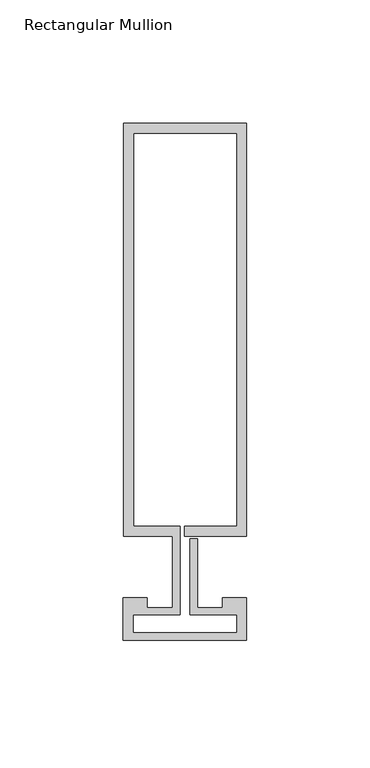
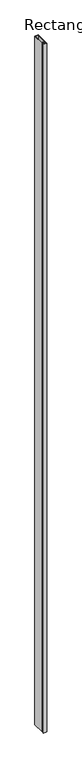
"""IFC4 building model written with IfcOpenShell, lengths in millimetres: member geometry, Rectangular Mullion : Reynaers_CW-50_Mullion-Transom_Vertical_167.5mm_Facecap-02B."""

import ifcopenshell
import ifcopenshell.guid

model = None  # the IFC model being written
_history = None  # IfcOwnerHistory: only IFC2X3 demands one
_inside = {}  # id of a spatial element -> (the spatial element, [elements in it])
_under = {}  # id of a project, library or spatial element -> (it, [spatial elements below it])
_declared = {}  # id of a project -> (the project, [libraries it declares])
_typed = {}  # id of a type object -> (the type object, [elements of that type])
_made_of = {}  # id of a material, layer set ... -> (it, [elements and type objects made of it])


def new_model(schema):
    """Start an empty IFC model of exactly this schema.

    Asked for "IFC4X3", IfcOpenShell would pick the latest addendum, in which some entities
    have other attributes; the version numbers below select the first issue.
    IFC2X3 requires an IfcOwnerHistory on every rooted entity: one is made here for all.
    """
    global model, _history
    if schema == "IFC4X3":
        model = ifcopenshell.file(schema_version=(4, 3, 0, 0))
    else:
        model = ifcopenshell.file(schema=schema)
    _inside.clear()
    _under.clear()
    _declared.clear()
    _typed.clear()
    _made_of.clear()
    _history = None
    if model.schema == "IFC2X3":
        org = make("IfcOrganization", Name="unknown")
        user = make(
            "IfcPersonAndOrganization",
            ThePerson=make("IfcPerson", FamilyName="unknown"),
            TheOrganization=org,
        )
        app = make(
            "IfcApplication",
            ApplicationDeveloper=org,
            Version="unknown",
            ApplicationFullName="unknown",
            ApplicationIdentifier="unknown",
        )
        _history = make(
            "IfcOwnerHistory",
            OwningUser=user,
            OwningApplication=app,
            ChangeAction="ADDED",
            CreationDate=0,
        )
    return model


def make(cls, **values):
    """One entity of the class cls with the attributes given. An attribute that is None is left unset."""
    return model.create_entity(
        cls, **{name: value for name, value in values.items() if value is not None}
    )


def rooted(cls, **values):
    """An entity with a GlobalId (a new one), such as an element, a storey or a relation."""
    return make(cls, GlobalId=ifcopenshell.guid.new(), OwnerHistory=_history, **values)


def si_unit(unit_type, name, prefix=None):
    """IfcSIUnit, for example si_unit("LENGTHUNIT", "METRE", prefix="MILLI")."""
    return make("IfcSIUnit", UnitType=unit_type, Prefix=prefix, Name=name)


def assignment(units):
    """IfcUnitAssignment: the units of a project."""
    return None if units is None else make("IfcUnitAssignment", Units=units)


def point(xyz):
    """IfcCartesianPoint."""
    return None if xyz is None else make("IfcCartesianPoint", Coordinates=xyz)


def direction(xyz):
    """IfcDirection."""
    return None if xyz is None else make("IfcDirection", DirectionRatios=xyz)


def frame(location, z_axis=None, x_axis=None):
    """IfcAxis2Placement3D, a coordinate frame: its origin and axes. An axis left out is left unset."""
    return make(
        "IfcAxis2Placement3D",
        Location=point(location),
        Axis=direction(z_axis),
        RefDirection=direction(x_axis),
    )


def origin():
    """The frame at (0, 0, 0) with its axes left unset."""
    return frame((0.0, 0.0, 0.0))


def place(relative_to, where):
    """IfcLocalPlacement: puts the frame where relative to a parent placement (None: the world)."""
    return make(
        "IfcLocalPlacement", PlacementRelTo=relative_to, RelativePlacement=where
    )


def context(
    kind, dimensions, precision=None, world=None, true_north=None, identifier=None
):
    """IfcGeometricRepresentationContext, for example the 3D "Model" context."""
    return make(
        "IfcGeometricRepresentationContext",
        ContextIdentifier=identifier,
        ContextType=kind,
        CoordinateSpaceDimension=dimensions,
        Precision=precision,
        WorldCoordinateSystem=world,
        TrueNorth=true_north,
    )


def project(units=None, contexts=None):
    """IfcProject with its units and contexts."""
    return rooted(
        "IfcProject",
        Name="project",
        RepresentationContexts=contexts,
        UnitsInContext=assignment(units),
    )


def spatial(cls, under=None, at=None, **own):
    """A site, building, storey or space (cls), placed at a placement, below another one or the project."""
    s = rooted(cls, ObjectPlacement=at, **own)
    if under is not None:
        _under.setdefault(under.id(), (under, []))[1].append(s)
    return s


def polyline(points):
    """IfcPolyline through the points."""
    return make("IfcPolyline", Points=[point(p) for p in points])


def outline(outer, holes=None, kind="AREA"):
    """IfcArbitraryClosedProfileDef: a profile drawn as a closed curve; with holes, ...WithVoids."""
    if holes is None:
        return make("IfcArbitraryClosedProfileDef", ProfileType=kind, OuterCurve=outer)
    return make(
        "IfcArbitraryProfileDefWithVoids",
        ProfileType=kind,
        OuterCurve=outer,
        InnerCurves=holes,
    )


def extrude(swept, where, along, depth):
    """IfcExtrudedAreaSolid: the profile swept, set in the frame where, extruded along a direction by depth."""
    return make(
        "IfcExtrudedAreaSolid",
        SweptArea=swept,
        Position=where,
        ExtrudedDirection=direction(along),
        Depth=depth,
    )


def shape(context_of_items, identifier, shape_type, items):
    """IfcShapeRepresentation: the items that make up one representation, for example the "Body"."""
    return make(
        "IfcShapeRepresentation",
        ContextOfItems=context_of_items,
        RepresentationIdentifier=identifier,
        RepresentationType=shape_type,
        Items=items,
    )


def source(mapping_origin, context_of_items, identifier, shape_type, items):
    """IfcRepresentationMap: a shape defined once, which mapped items show again and again."""
    return make(
        "IfcRepresentationMap",
        MappingOrigin=mapping_origin,
        MappedRepresentation=shape(context_of_items, identifier, shape_type, items),
    )


def transform(
    local_origin,
    x_axis=None,
    y_axis=None,
    z_axis=None,
    scale=None,
    scale2=None,
    scale3=None,
    uniform=True,
):
    """IfcCartesianTransformationOperator3D, or its non-uniform kind. x_axis, y_axis, z_axis: its Axis1, 2, 3."""
    if uniform:
        return make(
            "IfcCartesianTransformationOperator3D",
            Axis1=direction(x_axis),
            Axis2=direction(y_axis),
            LocalOrigin=point(local_origin),
            Scale=scale,
            Axis3=direction(z_axis),
        )
    return make(
        "IfcCartesianTransformationOperator3DnonUniform",
        Axis1=direction(x_axis),
        Axis2=direction(y_axis),
        LocalOrigin=point(local_origin),
        Scale=scale,
        Axis3=direction(z_axis),
        Scale2=scale2,
        Scale3=scale3,
    )


def mapped(mapping_source, mapping_target):
    """IfcMappedItem: shows the shape of a source again, moved by a transform."""
    return make(
        "IfcMappedItem", MappingSource=mapping_source, MappingTarget=mapping_target
    )


def made_of(thing, what):
    """Note that an element or type object is made of a material, layer set ...; save() writes the relation."""
    if what is not None:
        _made_of.setdefault(what.id(), (what, []))[1].append(thing)
    return thing


def element(
    cls,
    number,
    at=None,
    inside=None,
    cuts=None,
    type_object=None,
    material=None,
    context=None,
    identifier="Body",
    shape_type=None,
    held_by="IfcProductDefinitionShape",
    body=None,
    shapes=None,
    **own,
):
    """One element of the class cls, such as IfcWall. Its Tag is "e" and its number.

    at: its placement. inside: the storey or other place that contains it. cuts: it is an
    opening in that element (IfcRelVoidsElement). A single representation is given by context,
    identifier, shape_type and body (its items); several are given by shapes. held_by: the class
    of the entity that holds the representations. save() writes the other relations.
    """
    e = rooted(cls, Tag="e%d" % number, ObjectPlacement=at, **own)
    if body is not None:
        shapes = [shape(context, identifier, shape_type, body)]
    if shapes is not None:
        e.Representation = make(held_by, Representations=shapes)
    if inside is not None:
        _inside.setdefault(inside.id(), (inside, []))[1].append(e)
    if cuts is not None:
        rooted(
            "IfcRelVoidsElement", RelatingBuildingElement=cuts, RelatedOpeningElement=e
        )
    if type_object is not None:
        _typed.setdefault(type_object.id(), (type_object, []))[1].append(e)
    return made_of(e, material)


def aggregate(whole, parts):
    """IfcRelAggregates: a whole, such as a stair, and the parts it consists of."""
    return rooted("IfcRelAggregates", RelatingObject=whole, RelatedObjects=parts)


def save(model, path):
    """Write the relations noted so far, then the file.

    IfcRelAggregates (storeys below a building ...), IfcRelContainedInSpatialStructure (elements
    in a storey), IfcRelDefinesByType, IfcRelAssociatesMaterial and IfcRelDeclares: one each for
    every whole, place, type object, material and project.
    """
    for whole, parts in _under.values():
        aggregate(whole, parts)
    for where, things in _inside.values():
        rooted(
            "IfcRelContainedInSpatialStructure",
            RelatedElements=things,
            RelatingStructure=where,
        )
    for kind, things in _typed.values():
        rooted("IfcRelDefinesByType", RelatedObjects=things, RelatingType=kind)
    for what, things in _made_of.values():
        rooted("IfcRelAssociatesMaterial", RelatedObjects=things, RelatingMaterial=what)
    for by, libraries in _declared.values():
        rooted("IfcRelDeclares", RelatingContext=by, RelatedDefinitions=libraries)
    model.write(path)


def rectangular_mullion_036f0f09(model_context):
    return source(origin(), model_context, "Body", "SweptSolid", [
        extrude(outline(polyline([(-24.8004059, 180.0), (25.1995941, 180.0), (25.1995941, 12.5), (0.0, 12.5), (0.0, 16.5), (21.1995941, 16.5), (21.1995941, 176.0), (-20.8004059, 176.0), (-20.8004059, 16.5), (-1.9004059, 16.5), (-1.9004059, -19.5), (-20.994845, -19.5), (-20.994845, -26.7191338), (21.1995941, -26.7191338), (21.1995941, -19.5), (2.2995941, -19.5), (2.2995941, 11.5), (5.2995941, 11.5), (5.2995941, -16.5), (15.2996495, -16.5), (15.2996495, -12.5), (25.1995941, -12.5), (25.1995941, -29.8), (-24.994845, -29.8), (-24.994845, -12.5), (-15.2996495, -12.5), (-15.2996495, -16.5), (-4.9004059, -16.5), (-4.9004059, 12.5), (-24.8004059, 12.5), (-24.8004059, 180.0)])), frame((0.0, 0.0, -10400.0), z_axis=(0.0, 0.0, 1.0), x_axis=(1.0, 0.0, 0.0)), (0.0, 0.0, 1.0), 10400.0),
    ])


if __name__ == "__main__":
    model = new_model("IFC4")
    model_context = context("Model", 3, world=origin())
    ifc_project = project(units=[si_unit("LENGTHUNIT", "METRE", prefix="MILLI")], contexts=[model_context])
    site = spatial("IfcSite", under=ifc_project)
    building = spatial("IfcBuilding", under=site)
    placement = place(None, origin())
    rectangular_mullion_shape = rectangular_mullion_036f0f09(model_context)
    element("IfcMember", 1, ObjectType="Rectangular Mullion : Reynaers_CW-50_Mullion-Transom_Vertical_167.5mm_Facecap-02B", at=placement, inside=building, context=model_context, shape_type="MappedRepresentation", body=[
        mapped(rectangular_mullion_shape, transform((0.0, 0.0, 0.0), x_axis=(1.0, 0.0, 0.0), y_axis=(0.0, 1.0, 0.0), z_axis=(0.0, 0.0, 1.0))),
    ])
    save(model, "model.ifc")
